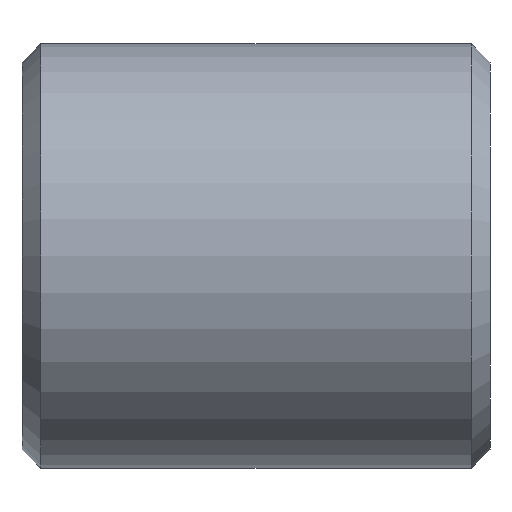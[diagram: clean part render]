
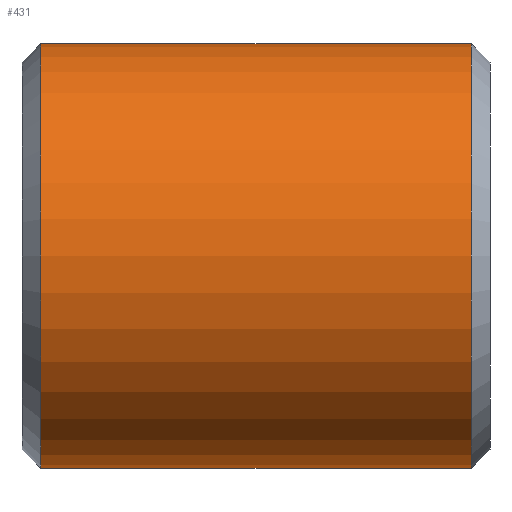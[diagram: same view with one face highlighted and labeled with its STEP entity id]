
A CAD part, left-side view. The second image highlights one B-rep face of the part: STEP entity #431.
In plain terms, the highlighted cylindrical face has radius 4.318 mm (diameter 8.636 mm), a full revolution.
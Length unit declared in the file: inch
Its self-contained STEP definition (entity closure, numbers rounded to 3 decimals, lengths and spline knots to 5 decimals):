
#19=FACE_BOUND('',#90,.T.);
#22=CYLINDRICAL_SURFACE('',#486,0.17);
#32=CIRCLE('',#484,0.17);
#33=CIRCLE('',#485,0.17);
#34=CIRCLE('',#487,0.17);
#35=CIRCLE('',#488,0.17);
#44=ELLIPSE('',#461,0.1963,0.17);
#45=ELLIPSE('',#463,0.1963,0.17);
#46=ELLIPSE('',#465,0.1963,0.17);
#47=ELLIPSE('',#467,0.1963,0.17);
#61=FACE_OUTER_BOUND('',#89,.T.);
#89=EDGE_LOOP('',(#337,#338,#339,#340,#341,#342));
#90=EDGE_LOOP('',(#343,#344,#345,#346,#347,#348));
#104=LINE('',#640,#144);
#116=LINE('',#671,#156);
#122=LINE('',#706,#162);
#144=VECTOR('',#508,0.3937);
#156=VECTOR('',#538,0.3937);
#162=VECTOR('',#580,0.17);
#184=VERTEX_POINT('',#638);
#185=VERTEX_POINT('',#639);
#188=VERTEX_POINT('',#647);
#190=VERTEX_POINT('',#653);
#192=VERTEX_POINT('',#659);
#194=VERTEX_POINT('',#665);
#204=VERTEX_POINT('',#699);
#205=VERTEX_POINT('',#701);
#206=VERTEX_POINT('',#705);
#207=VERTEX_POINT('',#707);
#223=EDGE_CURVE('',#184,#185,#104,.T.);
#227=EDGE_CURVE('',#185,#188,#44,.T.);
#230=EDGE_CURVE('',#188,#190,#45,.T.);
#233=EDGE_CURVE('',#192,#184,#46,.T.);
#236=EDGE_CURVE('',#194,#192,#47,.T.);
#239=EDGE_CURVE('',#190,#194,#116,.T.);
#253=EDGE_CURVE('',#204,#205,#32,.T.);
#254=EDGE_CURVE('',#205,#204,#33,.T.);
#255=EDGE_CURVE('',#205,#206,#122,.T.);
#256=EDGE_CURVE('',#207,#206,#34,.T.);
#257=EDGE_CURVE('',#206,#207,#35,.T.);
#337=ORIENTED_EDGE('',*,*,#253,.F.);
#338=ORIENTED_EDGE('',*,*,#254,.F.);
#339=ORIENTED_EDGE('',*,*,#255,.T.);
#340=ORIENTED_EDGE('',*,*,#256,.F.);
#341=ORIENTED_EDGE('',*,*,#257,.F.);
#342=ORIENTED_EDGE('',*,*,#255,.F.);
#343=ORIENTED_EDGE('',*,*,#230,.T.);
#344=ORIENTED_EDGE('',*,*,#239,.T.);
#345=ORIENTED_EDGE('',*,*,#236,.T.);
#346=ORIENTED_EDGE('',*,*,#233,.T.);
#347=ORIENTED_EDGE('',*,*,#223,.T.);
#348=ORIENTED_EDGE('',*,*,#227,.T.);
#431=ADVANCED_FACE('',(#61,#19),#22,.T.);
#461=AXIS2_PLACEMENT_3D('',#648,#514,#515);
#463=AXIS2_PLACEMENT_3D('',#654,#520,#521);
#465=AXIS2_PLACEMENT_3D('',#660,#526,#527);
#467=AXIS2_PLACEMENT_3D('',#666,#532,#533);
#484=AXIS2_PLACEMENT_3D('',#702,#574,#575);
#485=AXIS2_PLACEMENT_3D('',#703,#576,#577);
#486=AXIS2_PLACEMENT_3D('',#704,#578,#579);
#487=AXIS2_PLACEMENT_3D('',#708,#581,#582);
#488=AXIS2_PLACEMENT_3D('',#709,#583,#584);
#508=DIRECTION('',(0.,1.,0.));
#514=DIRECTION('center_axis',(0.,0.866,0.5));
#515=DIRECTION('ref_axis',(0.,0.5,-0.866));
#520=DIRECTION('center_axis',(0.,0.866,-0.5));
#521=DIRECTION('ref_axis',(0.,-0.5,-0.866));
#526=DIRECTION('center_axis',(0.,-0.866,0.5));
#527=DIRECTION('ref_axis',(0.,-0.5,-0.866));
#532=DIRECTION('center_axis',(0.,-0.866,-0.5));
#533=DIRECTION('ref_axis',(0.,0.5,-0.866));
#538=DIRECTION('',(0.,-1.,0.));
#574=DIRECTION('center_axis',(0.,-1.,0.));
#575=DIRECTION('ref_axis',(0.,0.,1.));
#576=DIRECTION('center_axis',(0.,-1.,0.));
#577=DIRECTION('ref_axis',(0.,0.,1.));
#578=DIRECTION('center_axis',(0.,-1.,0.));
#579=DIRECTION('ref_axis',(0.,0.,-1.));
#580=DIRECTION('',(0.,1.,0.));
#581=DIRECTION('center_axis',(0.,1.,0.));
#582=DIRECTION('ref_axis',(0.,0.,1.));
#583=DIRECTION('center_axis',(0.,1.,0.));
#584=DIRECTION('ref_axis',(0.,0.,1.));
#638=CARTESIAN_POINT('',(0.16733,0.17018,0.03));
#639=CARTESIAN_POINT('',(0.16733,0.20482,0.03));
#640=CARTESIAN_POINT('',(0.16733,0.1875,0.03));
#647=CARTESIAN_POINT('',(0.17,0.22214,0.));
#648=CARTESIAN_POINT('Origin',(0.,0.22214,0.));
#653=CARTESIAN_POINT('',(0.16733,0.20482,-0.03));
#654=CARTESIAN_POINT('Origin',(0.,0.22214,0.));
#659=CARTESIAN_POINT('',(0.17,0.15286,0.));
#660=CARTESIAN_POINT('Origin',(0.,0.15286,0.));
#665=CARTESIAN_POINT('',(0.16733,0.17018,-0.03));
#666=CARTESIAN_POINT('Origin',(0.,0.15286,0.));
#671=CARTESIAN_POINT('',(0.16733,0.1875,-0.03));
#699=CARTESIAN_POINT('',(0.,0.015,-0.17));
#701=CARTESIAN_POINT('',(0.,0.015,0.17));
#702=CARTESIAN_POINT('Origin',(0.,0.015,0.));
#703=CARTESIAN_POINT('Origin',(0.,0.015,0.));
#704=CARTESIAN_POINT('Origin',(0.,0.1875,0.));
#705=CARTESIAN_POINT('',(0.,0.36,0.17));
#706=CARTESIAN_POINT('',(0.,0.1875,0.17));
#707=CARTESIAN_POINT('',(0.,0.36,-0.17));
#708=CARTESIAN_POINT('Origin',(0.,0.36,0.));
#709=CARTESIAN_POINT('Origin',(0.,0.36,0.));
